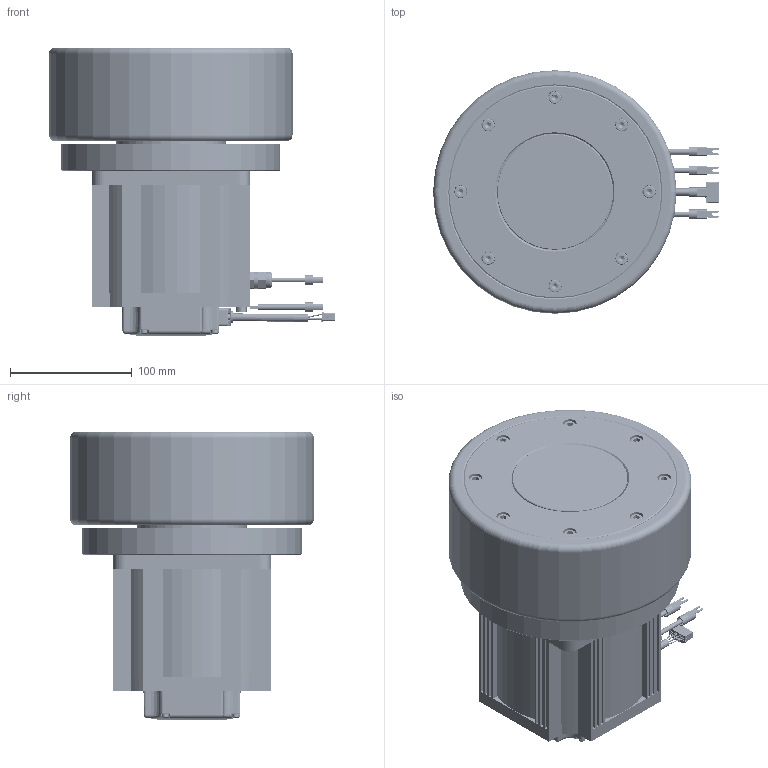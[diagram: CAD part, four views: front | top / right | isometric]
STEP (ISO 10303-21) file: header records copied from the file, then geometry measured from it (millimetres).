
FILE_DESCRIPTION((''),'2;1');
FILE_NAME('4611170005762-130SVE04302-1500B_ASM','2025-03-05T14:59:41',('ms15079'),(''),'CREO PARAMETRIC BY PTC INC, 2018100','CREO PARAMETRIC BY PTC INC, 2018100','');
FILE_SCHEMA(('CONFIG_CONTROL_DESIGN'));
Products named in the file (46): 4619121305633-1-SOLID1_1_2_1; M10_MM-8-20-3-SOLI0003_1; _10-SOLID100_1; _1-SOLID2_1_200_1; M10_MM-8-20-1-SOLI0003_1; M5-5-SOLID1_1_1; _1-SOLID1_1_200_1-16888; M5-1-SOLID1_1_2_1; M5-4-SOLID1_1_1; 4294404003789_A0-3-SOLID1_1_1; NONE-23980_1; _8-SOLID1_100_1; _9-SOLID1_100_1; M5-9-SOLID1_1; M5-8-SOLID1_1; 4219122001295-1-SOLID1_1; M5-7-SOLID1_1; DEEP_GROOVE_BALL_BEARINGS_GB__2; _1-SOLID1_1_20_1; M10_MM-8-20-2-SOLI0003_1; _7-SOLID1_1_200_1; M10_MM-8-20-1-SOLI0004_1; _1-SOLID1_1_200_1-37929; M5-3-SOLID1_1_1; _1-SOLID1_1_200_1-43436; M5-6-SOLID1_1_1; M10_MM-8-20-2-SOLI0004_1; 5016461600-1-SOLID1_1_2_1; 4294404003789_A0-1-SOLID1_1; M5-2-SOLID1_1_1; 4294404003789_A0-2-SOLID1_1_1; _1-SOLID1_1_20005_1; 4294404003789_A0-4-SOLID1_1_1; NONE-64015_1; _1-SOLID1_1_200_1-63293; 3698154000285__20001_1; M10_MM-8-20-3-SOLI0004_1; 4611170005762_A0_1_ASM_1_ASM; 4611170005762_A0_ASM_1_ASM; HEXAGON_SOCKET_HEAD_CAP_SCREWS_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
Assembly tree (59 placements, depth 4):
  4611170005762-130SVE04302-1500B_ASM
    4611170005762_A0_ASM_1_ASM
      4611170005762_A0_1_ASM_1_ASM
        4619121305633-1-SOLID1_1_2_1
        M10_MM-8-20-3-SOLI0003_1
        _10-SOLID100_1
        _1-SOLID2_1_200_1
        M10_MM-8-20-1-SOLI0003_1
        M5-5-SOLID1_1_1
        _1-SOLID1_1_200_1-16888
        M5-1-SOLID1_1_2_1
        M5-4-SOLID1_1_1
        4294404003789_A0-3-SOLID1_1_1
        NONE-23980_1
        _8-SOLID1_100_1
        _9-SOLID1_100_1
        M5-9-SOLID1_1
        M5-8-SOLID1_1
        4219122001295-1-SOLID1_1
        M5-7-SOLID1_1
        DEEP_GROOVE_BALL_BEARINGS_GB__2
        _1-SOLID1_1_20_1
        M10_MM-8-20-2-SOLI0003_1
        _7-SOLID1_1_200_1
        M10_MM-8-20-1-SOLI0004_1
        _1-SOLID1_1_200_1-37929
        M5-3-SOLID1_1_1
        _1-SOLID1_1_200_1-43436
        M5-6-SOLID1_1_1
        M10_MM-8-20-2-SOLI0004_1
        5016461600-1-SOLID1_1_2_1
        4294404003789_A0-1-SOLID1_1
        M5-2-SOLID1_1_1
        4294404003789_A0-2-SOLID1_1_1
        _1-SOLID1_1_20005_1
        4294404003789_A0-4-SOLID1_1_1
        NONE-64015_1
        _1-SOLID1_1_200_1-63293
        3698154000285__20001_1
        M10_MM-8-20-3-SOLI0004_1
    AEQ-145N-020-15-22-1-H77-W200_ASM
      AEQ-145-L2-15-22-1-H77-W200_ASM
        HEXAGON_SOCKET_HEAD_CAP_SCREWS_  x8
        SINGLE_COIL_LOCK_WASHERS_LIGHT_  x8
        AEQ-145N-032-15-22-1_X2_6A21578
        AEQ-145-H77-W200
Bounding box: 234.83 x 200 x 237.3 mm (x, y, z)
Volume: 3595762.5 mm3; surface area: 583266.4 mm2
Topology: 55 solids, 57 shells, 4348 faces, 10233 edges, 6025 vertices
Faces by surface type: cone 1399, plane 1354, cylinder 1248, torus 247, bspline 50, sphere 36, extrusion 14
Entity records: 85670 total; most frequent: CARTESIAN_POINT 21785, DIRECTION 13506, ORIENTED_EDGE 13010, EDGE_CURVE 6505, AXIS2_PLACEMENT_3D 4998, VERTEX_POINT 4142, VECTOR 3510, LINE 3496
